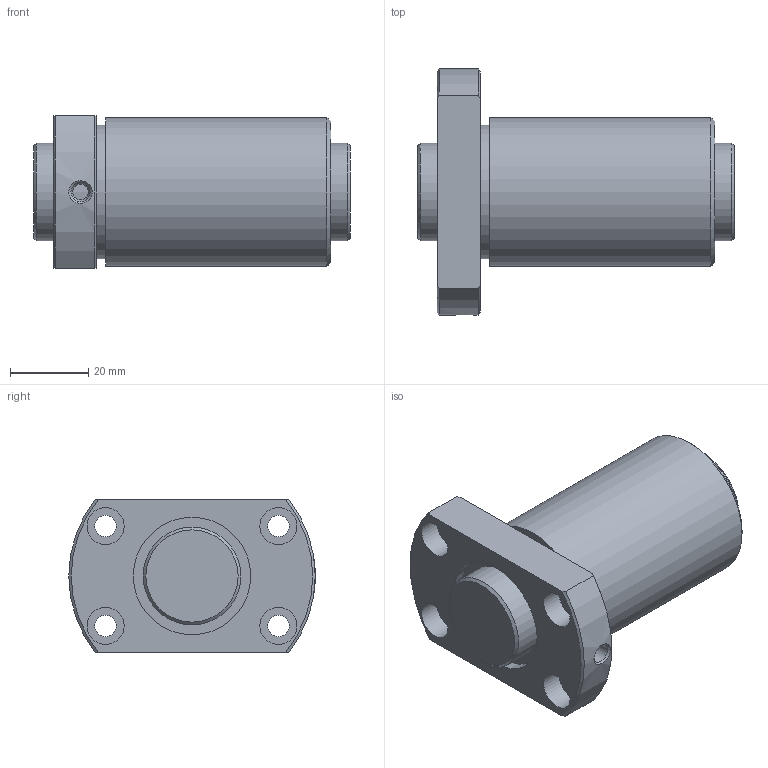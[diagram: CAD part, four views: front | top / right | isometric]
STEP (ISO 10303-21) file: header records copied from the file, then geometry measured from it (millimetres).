
FILE_DESCRIPTION(/* description */ ('STEP AP203'),/* implementation_level */ '2;1');
FILE_NAME(/* name */ 'DIK2504-8RRG0+81LC0_000',/* time_stamp */ '2025-01-13T09:47:16+01:00',/* author */ ('License CC BY-ND 4.0'),/* organization */ ('CADENAS'),/* preprocessor_version */ 'ST-DEVELOPER v19.3',/* originating_system */ 'PARTsolutions',/* authorisation */ ' ');
FILE_SCHEMA (('CONFIG_CONTROL_DESIGN'));
Length unit declared in the file: millimetre
Products named in the file (3): DIK2504-8RRG0+81LC0_000; DIK 2504-8RR08100 Shaft; DIK 2504-8RR Nut
Assembly tree (2 placements, depth 2):
  DIK2504-8RRG0+81LC0_000
    DIK 2504-8RR08100 Shaft
    DIK 2504-8RR Nut
Bounding box: 81 x 63 x 39 mm (x, y, z)
Volume: 93905.9 mm3; surface area: 27058.1 mm2
Topology: 2 solids, 2 shells, 41 faces, 83 edges, 54 vertices
Faces by surface type: cylinder 18, plane 14, cone 9
Full cylindrical faces by diameter (mm): 4 x1, 4.917 x1, 5.5 x4, 9.5 x4, 25 x2, 30 x2, 34.2 x1, 38 x1
Entity records: 1087 total; most frequent: CARTESIAN_POINT 200, DIRECTION 180, ORIENTED_EDGE 120, AXIS2_PLACEMENT_3D 86, EDGE_LOOP 82, FACE_BOUND 82, EDGE_CURVE 60, VERTEX_POINT 52
